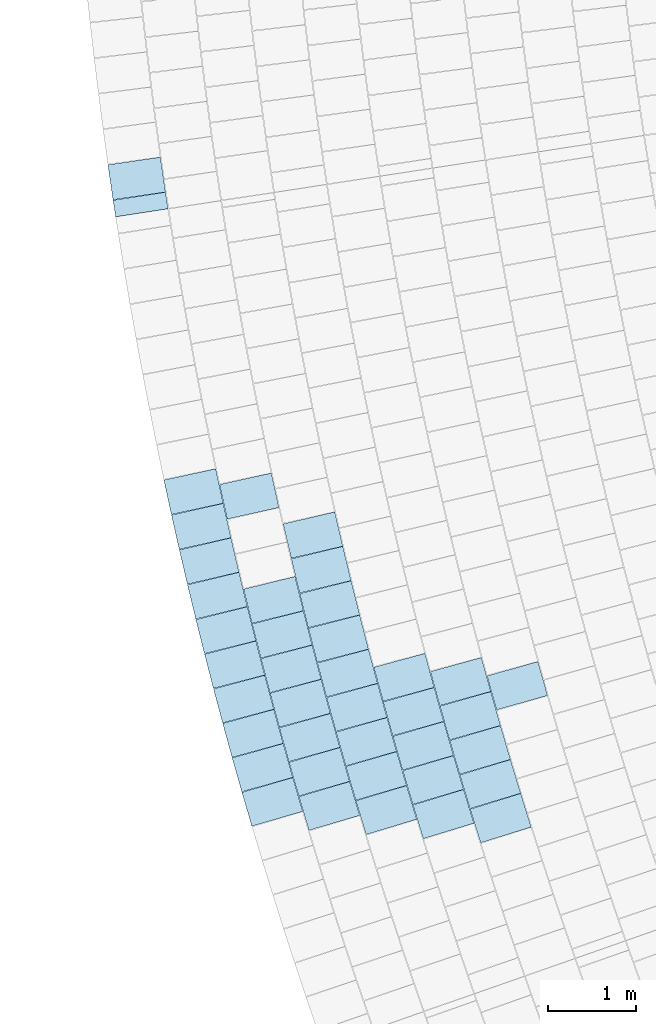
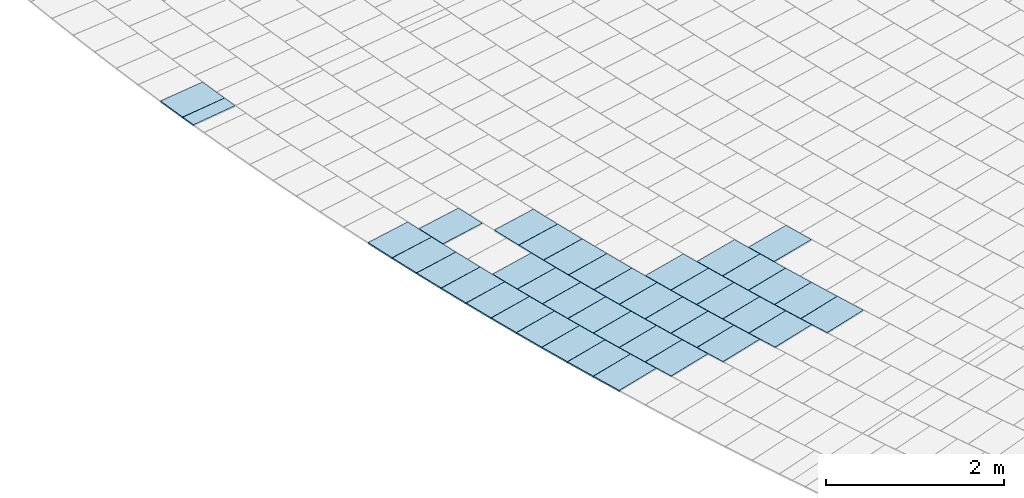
# One storey, part 71 of 438: 40 slabs.
"""IFC2X3 building model written with IfcOpenShell, lengths in millimetres."""

from ifc_helpers import new_model, entity, si_unit, converted_unit, derived_unit, direction, frame, origin, place, context, subcontext, project, spatial, polyline, outline, extrude, material, layer, layer_set, layer_usage, type_object, element, save


model = new_model("IFC2X3")

# Units and contexts
model_context = context("Model", 3, precision=0.01, world=origin(), true_north=direction((6.123031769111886e-17, 1.0)))
body_context = subcontext(model_context, "Body", "Model", "MODEL_VIEW")
ifc_project = project(units=[si_unit("LENGTHUNIT", "METRE", prefix="MILLI"), si_unit("AREAUNIT", "SQUARE_METRE"), si_unit("VOLUMEUNIT", "CUBIC_METRE"), converted_unit("PLANEANGLEUNIT", "DEGREE", entity("IfcRatioMeasure", 0.017453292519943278), si_unit("PLANEANGLEUNIT", "RADIAN"), dimensions=[0, 0, 0, 0, 0, 0, 0]), si_unit("MASSUNIT", "GRAM", prefix="KILO"), derived_unit("MASSDENSITYUNIT", [(si_unit("MASSUNIT", "GRAM", prefix="KILO"), 1), (si_unit("LENGTHUNIT", "METRE"), -3)]), derived_unit("MOMENTOFINERTIAUNIT", [(si_unit("LENGTHUNIT", "METRE"), 4)]), si_unit("TIMEUNIT", "SECOND"), si_unit("FREQUENCYUNIT", "HERTZ"), si_unit("THERMODYNAMICTEMPERATUREUNIT", "DEGREE_CELSIUS"), derived_unit("THERMALTRANSMITTANCEUNIT", [(si_unit("MASSUNIT", "GRAM", prefix="KILO"), 1), (si_unit("THERMODYNAMICTEMPERATUREUNIT", "KELVIN"), -1), (si_unit("TIMEUNIT", "SECOND"), -3)]), derived_unit("THERMALCONDUCTANCEUNIT", [(si_unit("MASSUNIT", "GRAM", prefix="KILO"), 1), (si_unit("LENGTHUNIT", "METRE"), 1), (si_unit("THERMODYNAMICTEMPERATUREUNIT", "KELVIN"), -1), (si_unit("TIMEUNIT", "SECOND"), -3)]), derived_unit("VOLUMETRICFLOWRATEUNIT", [(si_unit("LENGTHUNIT", "METRE"), 3), (si_unit("TIMEUNIT", "SECOND"), -1)]), derived_unit("MASSFLOWRATEUNIT", [(si_unit("MASSUNIT", "GRAM", prefix="KILO"), 1), (si_unit("TIMEUNIT", "SECOND"), -1)]), derived_unit("ROTATIONALFREQUENCYUNIT", [(si_unit("TIMEUNIT", "SECOND"), -1)]), si_unit("ELECTRICCURRENTUNIT", "AMPERE"), si_unit("ELECTRICVOLTAGEUNIT", "VOLT"), si_unit("POWERUNIT", "WATT"), converted_unit("FORCEUNIT", "KIP", entity("IfcRatioMeasure", 2.088543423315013e-05), si_unit("FORCEUNIT", "NEWTON"), dimensions=[1, 1, -2, 0, 0, 0, 0]), si_unit("ILLUMINANCEUNIT", "LUX"), si_unit("LUMINOUSFLUXUNIT", "LUMEN"), si_unit("LUMINOUSINTENSITYUNIT", "CANDELA"), derived_unit("USERDEFINED", [(si_unit("MASSUNIT", "GRAM", prefix="KILO"), -1), (si_unit("LENGTHUNIT", "METRE"), -2), (si_unit("TIMEUNIT", "SECOND"), 3), (si_unit("LUMINOUSFLUXUNIT", "LUMEN"), 1)]), derived_unit("USERDEFINED", [(si_unit("MASSUNIT", "GRAM", prefix="KILO"), 1), (si_unit("LENGTHUNIT", "METRE"), 3), (si_unit("TIMEUNIT", "SECOND"), -3), (si_unit("ELECTRICCURRENTUNIT", "AMPERE"), -2)]), derived_unit("USERDEFINED", [(si_unit("LENGTHUNIT", "METRE"), 2), (si_unit("TIMEUNIT", "SECOND"), -2)]), derived_unit("SOUNDPOWERUNIT", [(si_unit("MASSUNIT", "GRAM", prefix="KILO"), 1), (si_unit("LENGTHUNIT", "METRE"), 2), (si_unit("TIMEUNIT", "SECOND"), -3)]), derived_unit("SOUNDPRESSUREUNIT", [(si_unit("MASSUNIT", "GRAM", prefix="KILO"), 1), (si_unit("LENGTHUNIT", "METRE"), -1), (si_unit("TIMEUNIT", "SECOND"), -2)]), derived_unit("LINEARVELOCITYUNIT", [(si_unit("LENGTHUNIT", "METRE"), 1), (si_unit("TIMEUNIT", "SECOND"), -1)]), si_unit("PRESSUREUNIT", "PASCAL"), derived_unit("USERDEFINED", [(si_unit("LENGTHUNIT", "METRE"), -2), (si_unit("MASSUNIT", "GRAM", prefix="KILO"), 1), (si_unit("TIMEUNIT", "SECOND"), -2)]), derived_unit("LINEARFORCEUNIT", [(si_unit("MASSUNIT", "GRAM", prefix="KILO"), 1), (si_unit("LENGTHUNIT", "METRE"), 1), (si_unit("TIMEUNIT", "SECOND"), -2), (si_unit("LENGTHUNIT", "METRE"), -1)]), derived_unit("PLANARFORCEUNIT", [(si_unit("MASSUNIT", "GRAM", prefix="KILO"), 1), (si_unit("LENGTHUNIT", "METRE"), 1), (si_unit("TIMEUNIT", "SECOND"), -2), (si_unit("LENGTHUNIT", "METRE"), -2)]), derived_unit("SPECIFICHEATCAPACITYUNIT", [(si_unit("LENGTHUNIT", "METRE"), 2), (si_unit("TIMEUNIT", "SECOND"), -2), (si_unit("THERMODYNAMICTEMPERATUREUNIT", "KELVIN"), -1)]), derived_unit("VAPORPERMEABILITYUNIT", [(si_unit("TIMEUNIT", "SECOND"), 1), (si_unit("LENGTHUNIT", "METRE"), -1)]), derived_unit("DYNAMICVISCOSITYUNIT", [(si_unit("MASSUNIT", "GRAM", prefix="KILO"), 1), (si_unit("LENGTHUNIT", "METRE"), -1), (si_unit("TIMEUNIT", "SECOND"), -1)]), derived_unit("THERMALEXPANSIONCOEFFICIENTUNIT", [(si_unit("THERMODYNAMICTEMPERATUREUNIT", "KELVIN"), -1)])], contexts=[model_context])

# Site, building, storey
site_placement = place(None, frame((0.0, 0.0, 0.0), z_axis=(0.0, 0.0, 1.0), x_axis=(0.8191520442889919, 0.5735764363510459, 0.0)))
site = spatial("IfcSite", under=ifc_project, at=site_placement, Name="Default", CompositionType="ELEMENT")
building_placement = place(site_placement, origin())
building = spatial("IfcBuilding", under=site, at=building_placement, CompositionType="ELEMENT")
storey_placement = place(building_placement, origin())
storey = spatial("IfcBuildingStorey", under=building, at=storey_placement, Name="PLAN", CompositionType="ELEMENT", Elevation=0.0)

# Slabs
ifc_material = material(Name="Paint-01")
ifc_layer = layer(ifc_material, 20.00000000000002)
ifc_layer_set = layer_set([ifc_layer], Name="Floor:Slab-179:1000")
ifc_layer_usage = layer_usage(ifc_layer_set, "AXIS3", "POSITIVE", 0.0)
slab_type = type_object("IfcSlabType", Name="Floor:Slab-179:1000", PredefinedType="FLOOR", material=ifc_layer_set)
slab_1_placement = place(storey_placement, origin())
element("IfcSlab", 1, at=slab_1_placement, inside=storey, type_object=slab_type, material=ifc_layer_usage, Name="Floor:Slab-179:1000", ObjectType="Floor:Slab-179:1000", PredefinedType="FLOOR", context=body_context, shape_type="SweptSolid", body=[
    extrude(outline(polyline([(-300.0, -200.00000294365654), (299.9999976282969, -200.0000029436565), (300.0, 200.00000294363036), (-299.99999762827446, 200.0000029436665), (-300.0, -200.00000294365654)])), frame((-87883.88306504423, -49719.801862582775, 520.0), z_axis=(0.0, 0.0, -1.0), x_axis=(0.9337737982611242, -0.3578637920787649, 0.0)), (0.0, 0.0, 1.0), 19.99999999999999),
])
slab_2_placement = place(storey_placement, origin())
element("IfcSlab", 2, at=slab_2_placement, inside=storey, type_object=slab_type, material=ifc_layer_usage, Name="Floor:Slab-179:1000", ObjectType="Floor:Slab-179:1000", PredefinedType="FLOOR", context=body_context, shape_type="SweptSolid", body=[
    extrude(outline(polyline([(-300.0, -200.0000029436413), (299.999997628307, -200.00000294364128), (300.0, 200.00000294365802), (-299.9999976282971, 200.00000294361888), (-300.0, -200.0000029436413)])), frame((-89013.74936094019, -49286.78667416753, 520.0), z_axis=(0.0, 0.0, -1.0), x_axis=(0.9337737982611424, -0.35786379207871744, 0.0)), (0.0, 0.0, 1.0), 20.000000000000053),
])
slab_3_placement = place(storey_placement, origin())
element("IfcSlab", 3, at=slab_3_placement, inside=storey, type_object=slab_type, material=ifc_layer_usage, Name="Floor:Slab-179:1000", ObjectType="Floor:Slab-179:1000", PredefinedType="FLOOR", context=body_context, shape_type="SweptSolid", body=[
    extrude(outline(polyline([(-300.0, -200.0000029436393), (299.99999762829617, -200.00000294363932), (300.0, 200.00000294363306), (-299.9999976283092, 200.00000294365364), (-300.0, -200.0000029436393)])), frame((-88376.45835728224, -49315.58802255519, 520.0), z_axis=(0.0, 0.0, -1.0), x_axis=(0.9323698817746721, -0.3615057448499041, 0.0)), (0.0, 0.0, 1.0), 20.000000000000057),
])
slab_4_placement = place(storey_placement, origin())
element("IfcSlab", 4, at=slab_4_placement, inside=storey, type_object=slab_type, material=ifc_layer_usage, Name="Floor:Slab-179:1000", ObjectType="Floor:Slab-179:1000", PredefinedType="FLOOR", context=body_context, shape_type="SweptSolid", body=[
    extrude(outline(polyline([(-200.00000453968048, -299.9999986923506), (200.00000134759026, -299.9999986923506), (200.00000453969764, 299.99999869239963), (-200.00000134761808, 299.99999869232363), (-200.00000453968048, -299.9999986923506)])), frame((-86674.2417307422, -51691.6808757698, 520.0), z_axis=(0.0, 0.0, -1.0), x_axis=(-0.33094286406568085, -0.9436507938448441, 0.0)), (0.0, 0.0, 1.0), 20.000000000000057),
])
slab_5_placement = place(storey_placement, origin())
element("IfcSlab", 5, at=slab_5_placement, inside=storey, type_object=slab_type, material=ifc_layer_usage, Name="Floor:Slab-179:1000", ObjectType="Floor:Slab-179:1000", PredefinedType="FLOOR", context=body_context, shape_type="SweptSolid", body=[
    extrude(outline(polyline([(-200.0000045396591, -299.99999869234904), (200.00000134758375, -299.99999869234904), (200.00000453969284, 299.99999869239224), (-200.00000134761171, 299.9999986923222), (-200.0000045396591, -299.99999869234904)])), frame((-87172.3305986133, -51285.27462694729, 520.0), z_axis=(0.0, 0.0, -1.0), x_axis=(-0.335089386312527, -0.9421863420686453, 0.0)), (0.0, 0.0, 1.0), 19.999999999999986),
])
slab_6_placement = place(storey_placement, origin())
element("IfcSlab", 6, at=slab_6_placement, inside=storey, type_object=slab_type, material=ifc_layer_usage, Name="Floor:Slab-179:1000", ObjectType="Floor:Slab-179:1000", PredefinedType="FLOOR", context=body_context, shape_type="SweptSolid", body=[
    extrude(outline(polyline([(-200.0000045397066, -299.9999986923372), (200.00000134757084, -299.9999986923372), (200.00000453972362, 299.99999869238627), (-200.00000134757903, 299.99999869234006), (-200.0000045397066, -299.9999986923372)])), frame((-87305.6434479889, -51664.97617929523, 520.0), z_axis=(0.0, 0.0, -1.0), x_axis=(-0.32745335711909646, -0.9448673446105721, 0.0)), (0.0, 0.0, 1.0), 20.000000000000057),
])
slab_7_placement = place(storey_placement, origin())
element("IfcSlab", 7, at=slab_7_placement, inside=storey, type_object=slab_type, material=ifc_layer_usage, Name="Floor:Slab-179:1000", ObjectType="Floor:Slab-179:1000", PredefinedType="FLOOR", context=body_context, shape_type="SweptSolid", body=[
    extrude(outline(polyline([(-200.00000453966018, -299.9999986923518), (200.0000013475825, -299.9999986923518), (200.0000045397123, 299.9999986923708), (-200.0000013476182, 299.9999986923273), (-200.00000453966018, -299.9999986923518)])), frame((-87435.87903049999, -52045.74418965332, 520.0), z_axis=(0.0, 0.0, -1.0), x_axis=(-0.3197958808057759, -0.9474864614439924, 0.0)), (0.0, 0.0, 1.0), 19.999999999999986),
])
slab_8_placement = place(storey_placement, origin())
element("IfcSlab", 8, at=slab_8_placement, inside=storey, type_object=slab_type, material=ifc_layer_usage, Name="Floor:Slab-179:1000", ObjectType="Floor:Slab-179:1000", PredefinedType="FLOOR", context=body_context, shape_type="SweptSolid", body=[
    extrude(outline(polyline([(-200.00000453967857, -299.99999869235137), (200.00000134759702, -299.99999869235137), (200.00000453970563, 299.9999986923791), (-200.00000134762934, 299.99999869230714), (-200.00000453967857, -299.99999869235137)])), frame((-87687.08447702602, -52810.37975996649, 520.0), z_axis=(0.0, 0.0, -1.0), x_axis=(-0.30441859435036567, -0.9525383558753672, 0.0)), (0.0, 0.0, 1.0), 20.000000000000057),
])
slab_9_placement = place(storey_placement, origin())
element("IfcSlab", 9, at=slab_9_placement, inside=storey, type_object=slab_type, material=ifc_layer_usage, Name="Floor:Slab-179:1000", ObjectType="Floor:Slab-179:1000", PredefinedType="FLOOR", context=body_context, shape_type="SweptSolid", body=[
    extrude(outline(polyline([(-200.0000045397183, -299.9999986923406), (200.00000134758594, -299.9999986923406), (200.0000045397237, 299.9999986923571), (-200.00000134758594, 299.9999986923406), (-200.0000045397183, -299.9999986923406)])), frame((-87563.02881614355, -52427.55371896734, 520.0), z_axis=(0.0, 0.0, -1.0), x_axis=(-0.3121174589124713, -0.9500435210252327, 0.0)), (0.0, 0.0, 1.0), 19.99999999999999),
])
slab_10_placement = place(storey_placement, origin())
element("IfcSlab", 10, at=slab_10_placement, inside=storey, type_object=slab_type, material=ifc_layer_usage, Name="Floor:Slab-179:1000", ObjectType="Floor:Slab-179:1000", PredefinedType="FLOOR", context=body_context, shape_type="SweptSolid", body=[
    extrude(outline(polyline([(-200.00000453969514, -299.9999986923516), (200.00000134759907, -299.9999986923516), (200.00000453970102, 299.9999986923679), (-200.0000013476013, 299.9999986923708), (-200.00000453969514, -299.9999986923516)])), frame((-87669.54603527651, -50879.21278069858, 520.0), z_axis=(0.0, 0.0, -1.0), x_axis=(-0.3391293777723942, -0.9407397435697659, 0.0)), (0.0, 0.0, 1.0), 20.000000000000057),
])
slab_11_placement = place(storey_placement, origin())
element("IfcSlab", 11, at=slab_11_placement, inside=storey, type_object=slab_type, material=ifc_layer_usage, Name="Floor:Slab-179:1000", ObjectType="Floor:Slab-179:1000", PredefinedType="FLOOR", context=body_context, shape_type="SweptSolid", body=[
    extrude(outline(polyline([(-200.00000453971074, -299.99999869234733), (200.00000134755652, -299.99999869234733), (200.0000045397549, 299.9999986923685), (-200.00000134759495, 299.99999869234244), (-200.00000453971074, -299.99999869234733)])), frame((-87804.49575088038, -51258.30458113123, 520.0), z_axis=(0.0, 0.0, -1.0), x_axis=(-0.3315972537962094, -0.9434210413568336, 0.0)), (0.0, 0.0, 1.0), 19.99999999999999),
])
slab_12_placement = place(storey_placement, origin())
element("IfcSlab", 12, at=slab_12_placement, inside=storey, type_object=slab_type, material=ifc_layer_usage, Name="Floor:Slab-179:1000", ObjectType="Floor:Slab-179:1000", PredefinedType="FLOOR", context=body_context, shape_type="SweptSolid", body=[
    extrude(outline(polyline([(-200.00000453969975, -299.999998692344), (200.00000134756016, -299.999998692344), (200.0000045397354, 299.9999986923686), (-200.0000013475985, 299.9999986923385), (-200.00000453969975, -299.999998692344)])), frame((-88065.2812079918, -52019.664332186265, 520.0), z_axis=(0.0, 0.0, -1.0), x_axis=(-0.31646989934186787, -0.9486025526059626, 0.0)), (0.0, 0.0, 1.0), 20.000000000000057),
])
slab_13_placement = place(storey_placement, origin())
element("IfcSlab", 13, at=slab_13_placement, inside=storey, type_object=slab_type, material=ifc_layer_usage, Name="Floor:Slab-179:1000", ObjectType="Floor:Slab-179:1000", PredefinedType="FLOOR", context=body_context, shape_type="SweptSolid", body=[
    extrude(outline(polyline([(-200.00000453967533, -299.9999986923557), (200.0000013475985, -299.9999986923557), (200.00000453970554, 299.9999986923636), (-200.00000134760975, 299.9999986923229), (-200.00000453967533, -299.9999986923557)])), frame((-87936.41028587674, -51638.46319849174, 520.0), z_axis=(0.0, 0.0, -1.0), x_axis=(-0.32404393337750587, -0.9460420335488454, 0.0)), (0.0, 0.0, 1.0), 20.000000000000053),
])
slab_14_placement = place(storey_placement, origin())
element("IfcSlab", 14, at=slab_14_placement, inside=storey, type_object=slab_type, material=ifc_layer_usage, Name="Floor:Slab-179:1000", ObjectType="Floor:Slab-179:1000", PredefinedType="FLOOR", context=body_context, shape_type="SweptSolid", body=[
    extrude(outline(polyline([(-200.00000453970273, -299.9999986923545), (200.00000134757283, -299.9999986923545), (200.00000453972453, 299.99999869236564), (-200.00000134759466, 299.99999869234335), (-200.00000453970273, -299.9999986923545)])), frame((-88191.10027950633, -52401.883614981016, 520.0), z_axis=(0.0, 0.0, -1.0), x_axis=(-0.308875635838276, -0.9511024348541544, 0.0)), (0.0, 0.0, 1.0), 19.99999999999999),
])
slab_15_placement = place(storey_placement, origin())
element("IfcSlab", 15, at=slab_15_placement, inside=storey, type_object=slab_type, material=ifc_layer_usage, Name="Floor:Slab-179:1000", ObjectType="Floor:Slab-179:1000", PredefinedType="FLOOR", context=body_context, shape_type="SweptSolid", body=[
    extrude(outline(polyline([(-300.0, -200.0000029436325), (299.99999762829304, -200.00000294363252), (300.0, 200.00000294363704), (-299.99999762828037, 200.0000029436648), (-300.0, -200.0000029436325)])), frame((-87738.40767089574, -49344.65398925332, 520.0), z_axis=(0.0, 0.0, -1.0), x_axis=(0.9309176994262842, -0.3652290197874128, 0.0)), (0.0, 0.0, 1.0), 19.99999999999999),
])
slab_16_placement = place(storey_placement, origin())
element("IfcSlab", 16, at=slab_16_placement, inside=storey, type_object=slab_type, material=ifc_layer_usage, Name="Floor:Slab-179:1000", ObjectType="Floor:Slab-179:1000", PredefinedType="FLOOR", context=body_context, shape_type="SweptSolid", body=[
    extrude(outline(polyline([(-300.0, -200.00000294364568), (299.9999976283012, -200.0000029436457), (300.0, 200.00000294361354), (-299.99999762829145, 200.00000294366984), (-300.0, -200.00000294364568)])), frame((-87589.9733160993, -48970.667011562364, 520.0), z_axis=(0.0, 0.0, -1.0), x_axis=(0.9280035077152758, -0.37257145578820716, 0.0)), (0.0, 0.0, 1.0), 20.000000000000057),
])
slab_17_placement = place(storey_placement, origin())
element("IfcSlab", 17, at=slab_17_placement, inside=storey, type_object=slab_type, material=ifc_layer_usage, Name="Floor:Slab-179:1000", ObjectType="Floor:Slab-179:1000", PredefinedType="FLOOR", context=body_context, shape_type="SweptSolid", body=[
    extrude(outline(polyline([(-200.0000045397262, -299.9999986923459), (200.00000134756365, -299.99999869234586), (200.0000045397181, 299.9999986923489), (-200.0000013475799, 299.99999869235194), (-200.0000045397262, -299.9999986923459)])), frame((-88026.39042031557, -50096.087220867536, 520.0), z_axis=(0.0, 0.0, -1.0), x_axis=(-0.35047623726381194, -0.9365716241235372, 0.0)), (0.0, 0.0, 1.0), 20.000000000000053),
])
slab_18_placement = place(storey_placement, origin())
element("IfcSlab", 18, at=slab_18_placement, inside=storey, type_object=slab_type, material=ifc_layer_usage, Name="Floor:Slab-179:1000", ObjectType="Floor:Slab-179:1000", PredefinedType="FLOOR", context=body_context, shape_type="SweptSolid", body=[
    extrude(outline(polyline([(-200.00000453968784, -299.9999986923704), (200.00000134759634, -299.99999869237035), (200.00000453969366, 299.99999869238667), (-200.00000134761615, 299.9999986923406), (-200.00000453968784, -299.9999986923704)])), frame((-88302.46562795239, -50851.97639612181, 520.0), z_axis=(0.0, 0.0, -1.0), x_axis=(-0.3356359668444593, -0.9419917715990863, 0.0)), (0.0, 0.0, 1.0), 19.999999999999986),
])
slab_19_placement = place(storey_placement, origin())
element("IfcSlab", 19, at=slab_19_placement, inside=storey, type_object=slab_type, material=ifc_layer_usage, Name="Floor:Slab-179:1000", ObjectType="Floor:Slab-179:1000", PredefinedType="FLOOR", context=body_context, shape_type="SweptSolid", body=[
    extrude(outline(polyline([(-200.00000453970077, -299.99999869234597), (200.00000134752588, -299.99999869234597), (200.00000453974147, 299.9999986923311), (-200.00000134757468, 299.99999869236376), (-200.00000453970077, -299.99999869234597)])), frame((-88165.92084369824, -50473.48658244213, 520.0), z_axis=(0.0, 0.0, -1.0), x_axis=(-0.34306680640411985, -0.9393110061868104, 0.0)), (0.0, 0.0, 1.0), 20.000000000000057),
])
slab_20_placement = place(storey_placement, origin())
element("IfcSlab", 20, at=slab_20_placement, inside=storey, type_object=slab_type, material=ifc_layer_usage, Name="Floor:Slab-179:1000", ObjectType="Floor:Slab-179:1000", PredefinedType="FLOOR", context=body_context, shape_type="SweptSolid", body=[
    extrude(outline(polyline([(-200.0000045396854, -299.9999986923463), (200.00000134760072, -299.9999986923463), (200.00000453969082, 299.9999986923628), (-200.00000134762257, 299.9999986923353), (-200.0000045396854, -299.9999986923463)])), frame((-88694.10187145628, -51993.752026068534, 520.0), z_axis=(0.0, 0.0, -1.0), x_axis=(-0.3132196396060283, -0.9496807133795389, 0.0)), (0.0, 0.0, 1.0), 20.000000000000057),
])
slab_21_placement = place(storey_placement, origin())
element("IfcSlab", 21, at=slab_21_placement, inside=storey, type_object=slab_type, material=ifc_layer_usage, Name="Floor:Slab-179:1000", ObjectType="Floor:Slab-179:1000", PredefinedType="FLOOR", context=body_context, shape_type="SweptSolid", body=[
    extrude(outline(polyline([(-200.00000453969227, -299.9999986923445), (200.00000134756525, -299.9999986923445), (200.0000045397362, 299.9999986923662), (-200.00000134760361, 299.9999986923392), (-200.00000453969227, -299.9999986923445)])), frame((-88566.5643822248, -51612.13283629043, 520.0), z_axis=(0.0, 0.0, -1.0), x_axis=(-0.32071191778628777, -0.9471767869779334, 0.0)), (0.0, 0.0, 1.0), 20.000000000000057),
])
slab_22_placement = place(storey_placement, origin())
element("IfcSlab", 22, at=slab_22_placement, inside=storey, type_object=slab_type, material=ifc_layer_usage, Name="Floor:Slab-179:1000", ObjectType="Floor:Slab-179:1000", PredefinedType="FLOOR", context=body_context, shape_type="SweptSolid", body=[
    extrude(outline(polyline([(-200.00000453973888, -299.9999986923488), (200.0000013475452, -299.9999986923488), (200.00000453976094, 299.9999986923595), (-200.0000013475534, 299.99999869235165), (-200.00000453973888, -299.9999986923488)])), frame((-88436.01625215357, -51231.53304267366, 520.0), z_axis=(0.0, 0.0, -1.0), x_axis=(-0.32818418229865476, -0.9446137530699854, 0.0)), (0.0, 0.0, 1.0), 20.000000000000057),
])
slab_23_placement = place(storey_placement, origin())
element("IfcSlab", 23, at=slab_23_placement, inside=storey, type_object=slab_type, material=ifc_layer_usage, Name="Floor:Slab-179:1000", ObjectType="Floor:Slab-179:1000", PredefinedType="FLOOR", context=body_context, shape_type="SweptSolid", body=[
    extrude(outline(polyline([(-300.0, -200.00000294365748), (299.99999762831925, -200.00000294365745), (300.0, 200.0000029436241), (-299.9999976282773, 200.00000294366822), (-300.0, -200.00000294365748)])), frame((-87926.9765192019, -48195.41128406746, 520.0), z_axis=(0.0, 0.0, -1.0), x_axis=(0.9236488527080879, -0.3832398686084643, 0.0)), (0.0, 0.0, 1.0), 19.999999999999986),
])
slab_24_placement = place(storey_placement, origin())
element("IfcSlab", 24, at=slab_24_placement, inside=storey, type_object=slab_type, material=ifc_layer_usage, Name="Floor:Slab-179:1000", ObjectType="Floor:Slab-179:1000", PredefinedType="FLOOR", context=body_context, shape_type="SweptSolid", body=[
    extrude(outline(polyline([(-200.0000045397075, -299.9999986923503), (200.00000134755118, -299.9999986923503), (200.0000045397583, 299.9999986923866), (-200.00000134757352, 299.9999986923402), (-200.0000045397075, -299.9999986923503)])), frame((-88520.44086795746, -49691.281509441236, 520.0), z_axis=(0.0, 0.0, -1.0), x_axis=(-0.35421639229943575, -0.9351634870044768, 0.0)), (0.0, 0.0, 1.0), 19.99999999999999),
])
slab_25_placement = place(storey_placement, origin())
element("IfcSlab", 25, at=slab_25_placement, inside=storey, type_object=slab_type, material=ifc_layer_usage, Name="Floor:Slab-179:1000", ObjectType="Floor:Slab-179:1000", PredefinedType="FLOOR", context=body_context, shape_type="SweptSolid", body=[
    extrude(outline(polyline([(-200.00000453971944, -299.9999986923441), (200.00000134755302, -299.9999986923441), (200.00000453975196, 299.9999986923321), (-200.0000013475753, 299.99999869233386), (-200.00000453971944, -299.9999986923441)])), frame((-88661.4862220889, -50068.087517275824, 520.0), z_axis=(0.0, 0.0, -1.0), x_axis=(-0.34690544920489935, -0.9379001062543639, 0.0)), (0.0, 0.0, 1.0), 20.000000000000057),
])
slab_26_placement = place(storey_placement, origin())
element("IfcSlab", 26, at=slab_26_placement, inside=storey, type_object=slab_type, material=ifc_layer_usage, Name="Floor:Slab-179:1000", ObjectType="Floor:Slab-179:1000", PredefinedType="FLOOR", context=body_context, shape_type="SweptSolid", body=[
    extrude(outline(polyline([(-200.00000453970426, -299.99999869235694), (200.0000013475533, -299.9999986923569), (200.00000453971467, 299.9999986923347), (-200.00000134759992, 299.9999986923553), (-200.00000453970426, -299.99999869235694)])), frame((-88799.58582452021, -50445.983083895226, 520.0), z_axis=(0.0, 0.0, -1.0), x_axis=(-0.3395733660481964, -0.9405795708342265, 0.0)), (0.0, 0.0, 1.0), 20.000000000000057),
])
slab_27_placement = place(storey_placement, origin())
element("IfcSlab", 27, at=slab_27_placement, inside=storey, type_object=slab_type, material=ifc_layer_usage, Name="Floor:Slab-179:1000", ObjectType="Floor:Slab-179:1000", PredefinedType="FLOOR", context=body_context, shape_type="SweptSolid", body=[
    extrude(outline(polyline([(-200.00000453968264, -299.99999869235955), (200.0000013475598, -299.9999986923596), (200.00000453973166, 299.9999986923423), (-200.0000013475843, 299.99999869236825), (-200.00000453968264, -299.99999869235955)])), frame((-88934.73125960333, -50824.94518073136, 520.0), z_axis=(0.0, 0.0, -1.0), x_axis=(-0.3322205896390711, -0.9432017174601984, 0.0)), (0.0, 0.0, 1.0), 20.000000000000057),
])
slab_28_placement = place(storey_placement, origin())
element("IfcSlab", 28, at=slab_28_placement, inside=storey, type_object=slab_type, material=ifc_layer_usage, Name="Floor:Slab-179:1000", ObjectType="Floor:Slab-179:1000", PredefinedType="FLOOR", context=body_context, shape_type="SweptSolid", body=[
    extrude(outline(polyline([(-200.00000453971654, -299.9999986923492), (200.0000013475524, -299.9999986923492), (200.00000453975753, 299.99999869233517), (-200.0000013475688, 299.99999869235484), (-200.00000453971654, -299.9999986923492)])), frame((-89066.91429171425, -51204.950714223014, 520.0), z_axis=(0.0, 0.0, -1.0), x_axis=(-0.32484756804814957, -0.9457663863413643, 0.0)), (0.0, 0.0, 1.0), 19.99999999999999),
])
slab_29_placement = place(storey_placement, origin())
element("IfcSlab", 29, at=slab_29_placement, inside=storey, type_object=slab_type, material=ifc_layer_usage, Name="Floor:Slab-179:1000", ObjectType="Floor:Slab-179:1000", PredefinedType="FLOOR", context=body_context, shape_type="SweptSolid", body=[
    extrude(outline(polyline([(-200.00000453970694, -299.9999986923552), (200.0000013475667, -299.9999986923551), (200.0000045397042, 299.9999986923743), (-200.00000134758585, 299.999998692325), (-200.00000453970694, -299.9999986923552)])), frame((-89196.12686575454, -51585.9765272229, 520.0), z_axis=(0.0, 0.0, -1.0), x_axis=(-0.3174547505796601, -0.9482734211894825, 0.0)), (0.0, 0.0, 1.0), 20.000000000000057),
])
slab_30_placement = place(storey_placement, origin())
element("IfcSlab", 30, at=slab_30_placement, inside=storey, type_object=slab_type, material=ifc_layer_usage, Name="Floor:Slab-179:1000", ObjectType="Floor:Slab-179:1000", PredefinedType="FLOOR", context=body_context, shape_type="SweptSolid", body=[
    extrude(outline(polyline([(-300.0, -200.00000294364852), (299.99999762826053, -200.0000029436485), (300.0, 200.0000029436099), (-299.99999762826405, 200.00000294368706), (-300.0, -200.00000294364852)])), frame((-88868.32848997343, -48911.67682759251, 520.0), z_axis=(0.0, 0.0, -1.0), x_axis=(0.9309850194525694, -0.36505738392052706, 0.0)), (0.0, 0.0, 1.0), 20.000000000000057),
])
slab_31_placement = place(storey_placement, origin())
element("IfcSlab", 31, at=slab_31_placement, inside=storey, type_object=slab_type, material=ifc_layer_usage, Name="Floor:Slab-179:1000", ObjectType="Floor:Slab-179:1000", PredefinedType="FLOOR", context=body_context, shape_type="SweptSolid", body=[
    extrude(outline(polyline([(-300.0, -200.00000294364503), (299.9999976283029, -200.00000294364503), (300.0, 200.00000294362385), (-299.9999976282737, 200.00000294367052), (-300.0, -200.00000294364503)])), frame((-88568.82642869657, -48164.87873725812, 520.0), z_axis=(0.0, 0.0, -1.0), x_axis=(0.9252413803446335, -0.37937895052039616, 0.0)), (0.0, 0.0, 1.0), 20.000000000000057),
])
slab_32_placement = place(storey_placement, origin())
element("IfcSlab", 32, at=slab_32_placement, inside=storey, type_object=slab_type, material=ifc_layer_usage, Name="Floor:Slab-179:1000", ObjectType="Floor:Slab-179:1000", PredefinedType="FLOOR", context=body_context, shape_type="SweptSolid", body=[
    extrude(outline(polyline([(-300.0, -200.00000294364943), (299.99999762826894, -200.00000294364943), (300.0, 200.0000029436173), (-299.9999976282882, 200.0000029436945), (-300.0, -200.00000294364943)])), frame((-88720.0179031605, -48537.70009496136, 520.0), z_axis=(0.0, 0.0, -1.0), x_axis=(0.9281408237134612, -0.3722292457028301, 0.0)), (0.0, 0.0, 1.0), 20.000000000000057),
])
slab_33_placement = place(storey_placement, origin())
element("IfcSlab", 33, at=slab_33_placement, inside=storey, type_object=slab_type, material=ifc_layer_usage, Name="Floor:Slab-179:1000", ObjectType="Floor:Slab-179:1000", PredefinedType="FLOOR", context=body_context, shape_type="SweptSolid", body=[
    extrude(outline(polyline([(-300.0, -200.000002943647), (299.9999976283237, -200.000002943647), (300.0, 200.000002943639), (-299.9999976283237, 200.000002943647), (-300.0, -200.000002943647)])), frame((-88414.76306626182, -47793.234946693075, 520.0), z_axis=(0.0, 0.0, -1.0), x_axis=(0.9222868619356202, -0.38650607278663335, 0.0)), (0.0, 0.0, 1.0), 19.99999999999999),
])
slab_34_placement = place(storey_placement, origin())
element("IfcSlab", 34, at=slab_34_placement, inside=storey, type_object=slab_type, material=ifc_layer_usage, Name="Floor:Slab-179:1000", ObjectType="Floor:Slab-179:1000", PredefinedType="FLOOR", context=body_context, shape_type="SweptSolid", body=[
    extrude(outline(polyline([(-200.00000453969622, -299.9999986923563), (200.00000134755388, -299.9999986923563), (200.00000453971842, 299.9999986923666), (-200.00000134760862, 299.9999986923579), (-200.00000453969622, -299.9999986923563)])), frame((-89295.88750312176, -50040.316329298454, 520.0), z_axis=(0.0, 0.0, -1.0), x_axis=(-0.34341313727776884, -0.9391844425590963, 0.0)), (0.0, 0.0, 1.0), 19.999999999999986),
])
slab_35_placement = place(storey_placement, origin())
element("IfcSlab", 35, at=slab_35_placement, inside=storey, type_object=slab_type, material=ifc_layer_usage, Name="Floor:Slab-179:1000", ObjectType="Floor:Slab-179:1000", PredefinedType="FLOOR", context=body_context, shape_type="SweptSolid", body=[
    extrude(outline(polyline([(-200.0000045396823, -299.99999869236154), (200.00000134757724, -299.99999869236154), (200.0000045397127, 299.99999869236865), (-200.00000134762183, 299.99999869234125), (-200.0000045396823, -299.99999869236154)])), frame((-89156.27185987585, -49663.007306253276, 520.0), z_axis=(0.0, 0.0, -1.0), x_axis=(-0.3506489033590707, -0.9365069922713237, 0.0)), (0.0, 0.0, 1.0), 19.99999999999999),
])
slab_36_placement = place(storey_placement, origin())
element("IfcSlab", 36, at=slab_36_placement, inside=storey, type_object=slab_type, material=ifc_layer_usage, Name="Floor:Slab-179:1000", ObjectType="Floor:Slab-179:1000", PredefinedType="FLOOR", context=body_context, shape_type="SweptSolid", body=[
    extrude(outline(polyline([(-200.00000453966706, -299.999998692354), (200.00000134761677, -299.999998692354), (200.00000453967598, 299.99999869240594), (-200.00000134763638, 299.99999869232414), (-200.00000453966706, -299.999998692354)])), frame((-89566.36515355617, -50798.10964746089, 520.0), z_axis=(0.0, 0.0, -1.0), x_axis=(-0.32888071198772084, -0.9443714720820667, 0.0)), (0.0, 0.0, 1.0), 19.99999999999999),
])
slab_37_placement = place(storey_placement, origin())
element("IfcSlab", 37, at=slab_37_placement, inside=storey, type_object=slab_type, material=ifc_layer_usage, Name="Floor:Slab-179:1000", ObjectType="Floor:Slab-179:1000", PredefinedType="FLOOR", context=body_context, shape_type="SweptSolid", body=[
    extrude(outline(polyline([(-200.0000045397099, -299.9999986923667), (200.0000013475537, -299.9999986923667), (200.0000045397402, 299.9999986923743), (-200.0000013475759, 299.99999869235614), (-200.0000045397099, -299.9999986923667)])), frame((-89432.5879800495, -50418.691283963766, 520.0), z_axis=(0.0, 0.0, -1.0), x_axis=(-0.33615692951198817, -0.9418059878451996, 0.0)), (0.0, 0.0, 1.0), 20.000000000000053),
])
slab_38_placement = place(storey_placement, origin())
element("IfcSlab", 38, at=slab_38_placement, inside=storey, type_object=slab_type, material=ifc_layer_usage, Name="Floor:Slab-179:1000", ObjectType="Floor:Slab-179:1000", PredefinedType="FLOOR", context=body_context, shape_type="SweptSolid", body=[
    extrude(outline(polyline([(-200.0000045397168, -299.9999986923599), (200.0000013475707, -299.9999986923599), (200.00000453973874, 299.9999986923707), (-200.00000134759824, 299.99999869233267), (-200.0000045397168, -299.9999986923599)])), frame((-89697.2110605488, -51178.548834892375, 520.0), z_axis=(0.0, 0.0, -1.0), x_axis=(-0.3215849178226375, -0.94688074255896, 0.0)), (0.0, 0.0, 1.0), 19.99999999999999),
])
slab_39_placement = place(storey_placement, origin())
element("IfcSlab", 39, at=slab_39_placement, inside=storey, type_object=slab_type, material=ifc_layer_usage, Name="Floor:Slab-179:1000", ObjectType="Floor:Slab-179:1000", PredefinedType="FLOOR", context=body_context, shape_type="SweptSolid", body=[
    extrude(outline(polyline([(-299.9999981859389, -95.1902437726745), (299.99999919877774, -95.19024377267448), (299.9999981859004, 95.19024377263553), (-299.99999919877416, 95.19024377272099), (-299.9999981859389, -95.1902437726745)])), frame((-87042.28869953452, -44788.63586988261, 520.0), z_axis=(0.0, 0.0, -1.0), x_axis=(0.8968555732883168, -0.4423235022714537, 0.0)), (0.0, 0.0, 1.0), 20.000000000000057),
])
slab_40_placement = place(storey_placement, origin())
element("IfcSlab", 40, at=slab_40_placement, inside=storey, type_object=slab_type, material=ifc_layer_usage, Name="Floor:Slab-179:1000", ObjectType="Floor:Slab-179:1000", PredefinedType="FLOOR", context=body_context, shape_type="SweptSolid", body=[
    extrude(outline(polyline([(-299.9999976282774, -200.000002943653), (300.0, -200.00000294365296), (299.99999762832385, 200.00000294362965), (-300.0, 200.00000294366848), (-299.9999976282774, -200.000002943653)])), frame((-86909.30607602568, -44522.50883817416, 520.0), z_axis=(0.0, 0.0, -1.0), x_axis=(0.8934162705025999, -0.44922974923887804, 0.0)), (0.0, 0.0, 1.0), 20.000000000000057),
])

save(model, "model.ifc")
